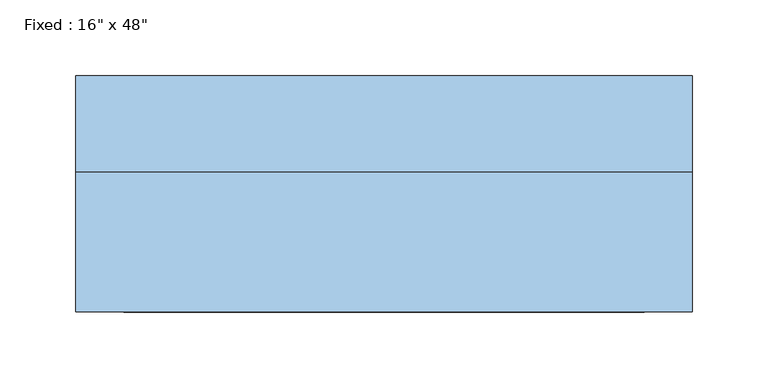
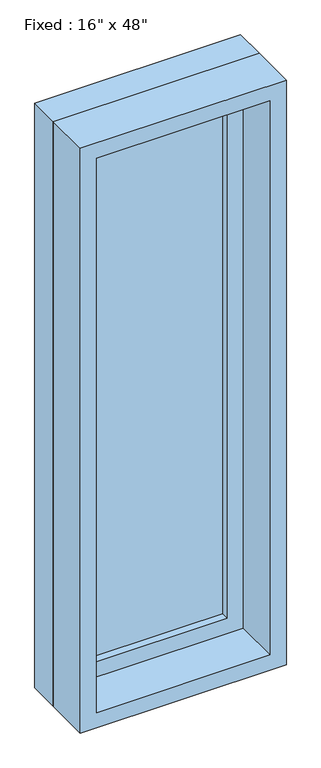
"""IFC4 building model written with IfcOpenShell, lengths in millimetres: window geometry."""

from ifc_helpers import new_model, si_unit, frame, origin, place, context, project, spatial, polyline, outline, extrude, source, transform, mapped, element, save


def window_e5635882(model_context):
    return source(origin(), model_context, "Body", "SweptSolid", [
        extrude(outline(polyline([(101.6, 30.1625), (-177.8, 30.1625), (-177.8, 42.8625), (101.6, 42.8625), (101.6, 30.1625)])), frame((0.0, 0.0, 977.9), z_axis=(0.0, 0.0, 1.0), x_axis=(1.0, 0.0, 0.0)), (0.0, 0.0, 1.0), 1092.2),
        extrude(outline(polyline([(2114.55, -222.25), (933.45, -222.25), (933.45, 146.05), (2114.55, 146.05), (2114.55, -222.25)]), holes=[polyline([(2070.1, -177.8), (2070.1, 101.6), (977.9, 101.6), (977.9, -177.8), (2070.1, -177.8)])]), frame((0.0, 14.2875, 0.0), z_axis=(0.0, 1.0, 0.0), x_axis=(0.0, 0.0, 1.0)), (0.0, 0.0, 1.0), 44.45),
        extrude(outline(polyline([(2133.6, -241.3), (914.4, -241.3), (914.4, 165.1), (2133.6, 165.1), (2133.6, -241.3)]), holes=[polyline([(2101.85, -209.55), (2101.85, 133.35), (946.15, 133.35), (946.15, -209.55), (2101.85, -209.55)])]), frame((0.0, -77.7875, 0.0), z_axis=(0.0, 1.0, 0.0), x_axis=(0.0, 0.0, 1.0)), (0.0, 0.0, 1.0), 92.075),
        extrude(outline(polyline([(2133.6, 165.1), (2133.6, -241.3), (914.4, -241.3), (914.4, 165.1), (2133.6, 165.1)]), holes=[polyline([(2114.55, 146.05), (933.45, 146.05), (933.45, -222.25), (2114.55, -222.25), (2114.55, 146.05)])]), frame((0.0, 14.2875, 0.0), z_axis=(0.0, 1.0, 0.0), x_axis=(0.0, 0.0, 1.0)), (0.0, 0.0, 1.0), 63.5),
    ])


if __name__ == "__main__":
    model = new_model("IFC4")
    model_context = context("Model", 3, world=origin())
    ifc_project = project(units=[si_unit("LENGTHUNIT", "METRE", prefix="MILLI")], contexts=[model_context])
    site = spatial("IfcSite", under=ifc_project)
    building = spatial("IfcBuilding", under=site)
    placement = place(None, origin())
    window_shape = window_e5635882(model_context)
    element("IfcWindow", 1, ObjectType="Fixed : 16\" x 48\"", at=placement, inside=building, context=model_context, shape_type="MappedRepresentation", body=[
        mapped(window_shape, transform((0.0, 0.0, 0.0), x_axis=(1.0, 0.0, 0.0), y_axis=(0.0, 1.0, 0.0), z_axis=(0.0, 0.0, 1.0))),
    ])
    save(model, "model.ifc")
